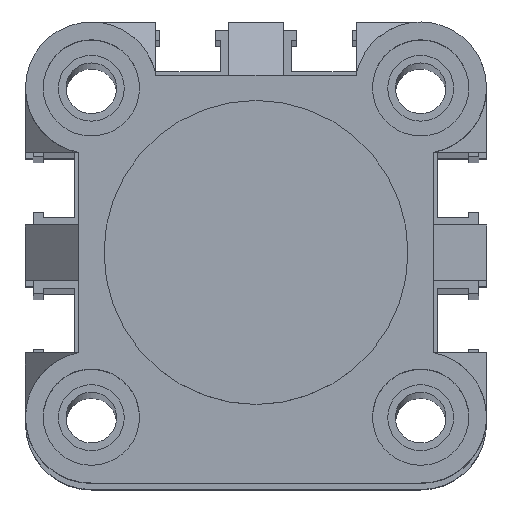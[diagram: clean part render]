
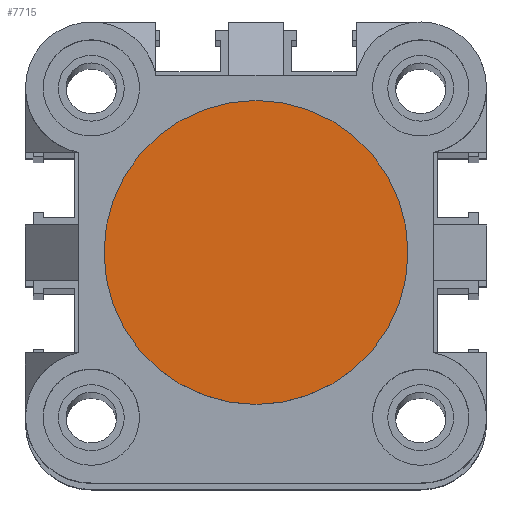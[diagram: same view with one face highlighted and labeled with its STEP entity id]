
A CAD part, top view. The second image highlights one B-rep face of the part: STEP entity #7715.
In plain terms, the highlighted planar face has unit normal (0, 0, 1).
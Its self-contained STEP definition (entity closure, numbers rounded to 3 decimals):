
#782 = CIRCLE ( 'NONE', #7263, 15. ) ;
#1574 = DIRECTION ( 'NONE',  ( 0., 0., 1. ) ) ;
#1985 = FACE_OUTER_BOUND ( 'NONE', #6134, .T. ) ;
#2087 = DIRECTION ( 'NONE',  ( 1., 0., 0. ) ) ;
#2321 = CIRCLE ( 'NONE', #7961, 15. ) ;
#2850 = CARTESIAN_POINT ( 'NONE',  ( 0., 0., 29. ) ) ;
#2975 = VERTEX_POINT ( 'NONE', #3634 ) ;
#3634 = CARTESIAN_POINT ( 'NONE',  ( -15., 0., 29. ) ) ;
#4077 = DIRECTION ( 'NONE',  ( 0., 0., 1. ) ) ;
#4284 = AXIS2_PLACEMENT_3D ( 'NONE', #2850, #6816, #2087 ) ;
#4376 = EDGE_CURVE ( 'NONE', #2975, #9669, #782, .T. ) ;
#4394 = CARTESIAN_POINT ( 'NONE',  ( 15., 0., 29. ) ) ;
#6134 = EDGE_LOOP ( 'NONE', ( #8133, #6857 ) ) ;
#6308 = CARTESIAN_POINT ( 'NONE',  ( 0., 0., 29. ) ) ;
#6816 = DIRECTION ( 'NONE',  ( 0., 0., 1. ) ) ;
#6857 = ORIENTED_EDGE ( 'NONE', *, *, #4376, .T. ) ;
#7126 = DIRECTION ( 'NONE',  ( 1., 0., 0. ) ) ;
#7263 = AXIS2_PLACEMENT_3D ( 'NONE', #6308, #1574, #7126 ) ;
#7715 = ADVANCED_FACE ( 'NONE', ( #1985 ), #9987, .T. ) ;
#7961 = AXIS2_PLACEMENT_3D ( 'NONE', #8836, #4077, #9639 ) ;
#8133 = ORIENTED_EDGE ( 'NONE', *, *, #8744, .T. ) ;
#8744 = EDGE_CURVE ( 'NONE', #9669, #2975, #2321, .T. ) ;
#8836 = CARTESIAN_POINT ( 'NONE',  ( 0., 0., 29. ) ) ;
#9639 = DIRECTION ( 'NONE',  ( 1., 0., 0. ) ) ;
#9669 = VERTEX_POINT ( 'NONE', #4394 ) ;
#9987 = PLANE ( 'NONE',  #4284 ) ;
